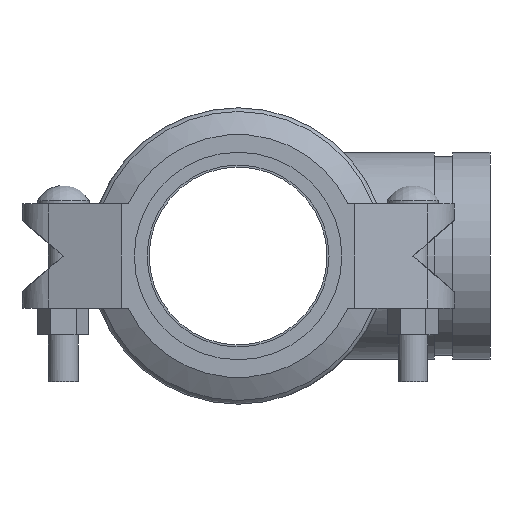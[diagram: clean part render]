
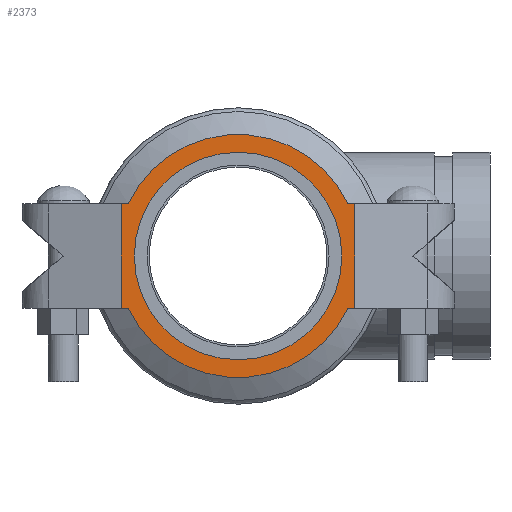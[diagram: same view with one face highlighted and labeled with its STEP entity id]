
A CAD part, left-side view. The second image highlights one B-rep face of the part: STEP entity #2373.
In plain terms, the highlighted planar face has unit normal (-1, 0, 0) as drawn and (0, 0, 1) by its records, which use the part's own axes.
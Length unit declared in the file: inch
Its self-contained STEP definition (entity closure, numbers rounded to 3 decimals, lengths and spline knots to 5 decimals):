
#94=FACE_BOUND('',#372,.T.);
#140=PLANE('',#2676);
#235=FACE_OUTER_BOUND('',#371,.T.);
#371=EDGE_LOOP('',(#1776,#1777,#1778,#1779,#1780,#1781,#1782,#1783));
#372=EDGE_LOOP('',(#1784,#1785));
#521=LINE('',#3846,#694);
#534=LINE('',#3880,#707);
#535=LINE('',#3884,#708);
#536=LINE('',#3886,#709);
#537=LINE('',#3888,#710);
#538=LINE('',#3891,#711);
#694=VECTOR('',#3140,0.3937);
#707=VECTOR('',#3179,0.3937);
#708=VECTOR('',#3182,0.3937);
#709=VECTOR('',#3183,0.3937);
#710=VECTOR('',#3184,0.3937);
#711=VECTOR('',#3187,0.3937);
#862=CIRCLE('',#2677,2.05);
#863=CIRCLE('',#2678,2.05);
#864=CIRCLE('',#2679,1.75);
#865=CIRCLE('',#2680,1.75);
#1029=VERTEX_POINT('',#3843);
#1030=VERTEX_POINT('',#3845);
#1038=VERTEX_POINT('',#3879);
#1039=VERTEX_POINT('',#3881);
#1040=VERTEX_POINT('',#3883);
#1041=VERTEX_POINT('',#3885);
#1042=VERTEX_POINT('',#3887);
#1043=VERTEX_POINT('',#3889);
#1044=VERTEX_POINT('',#3892);
#1045=VERTEX_POINT('',#3893);
#1295=EDGE_CURVE('',#1030,#1029,#521,.T.);
#1311=EDGE_CURVE('',#1029,#1038,#534,.T.);
#1312=EDGE_CURVE('',#1039,#1038,#862,.T.);
#1313=EDGE_CURVE('',#1040,#1039,#535,.T.);
#1314=EDGE_CURVE('',#1040,#1041,#536,.T.);
#1315=EDGE_CURVE('',#1041,#1042,#537,.T.);
#1316=EDGE_CURVE('',#1043,#1042,#863,.T.);
#1317=EDGE_CURVE('',#1030,#1043,#538,.T.);
#1318=EDGE_CURVE('',#1044,#1045,#864,.T.);
#1319=EDGE_CURVE('',#1045,#1044,#865,.T.);
#1776=ORIENTED_EDGE('',*,*,#1295,.T.);
#1777=ORIENTED_EDGE('',*,*,#1311,.T.);
#1778=ORIENTED_EDGE('',*,*,#1312,.F.);
#1779=ORIENTED_EDGE('',*,*,#1313,.F.);
#1780=ORIENTED_EDGE('',*,*,#1314,.T.);
#1781=ORIENTED_EDGE('',*,*,#1315,.T.);
#1782=ORIENTED_EDGE('',*,*,#1316,.F.);
#1783=ORIENTED_EDGE('',*,*,#1317,.F.);
#1784=ORIENTED_EDGE('',*,*,#1318,.T.);
#1785=ORIENTED_EDGE('',*,*,#1319,.T.);
#2373=ADVANCED_FACE('',(#235,#94),#140,.T.);
#2676=AXIS2_PLACEMENT_3D('',#3878,#3177,#3178);
#2677=AXIS2_PLACEMENT_3D('',#3882,#3180,#3181);
#2678=AXIS2_PLACEMENT_3D('',#3890,#3185,#3186);
#2679=AXIS2_PLACEMENT_3D('',#3894,#3188,#3189);
#2680=AXIS2_PLACEMENT_3D('',#3895,#3190,#3191);
#3140=DIRECTION('',(0.,-1.,0.));
#3177=DIRECTION('center_axis',(0.,0.,1.));
#3178=DIRECTION('ref_axis',(1.,0.,0.));
#3179=DIRECTION('',(1.,0.,0.));
#3180=DIRECTION('center_axis',(0.,0.,-1.));
#3181=DIRECTION('ref_axis',(-1.,0.,0.));
#3182=DIRECTION('',(-1.,0.,0.));
#3183=DIRECTION('',(0.,1.,0.));
#3184=DIRECTION('',(-1.,0.,0.));
#3185=DIRECTION('center_axis',(0.,0.,-1.));
#3186=DIRECTION('ref_axis',(-1.,0.,0.));
#3187=DIRECTION('',(1.,0.,0.));
#3188=DIRECTION('center_axis',(0.,0.,-1.));
#3189=DIRECTION('ref_axis',(-1.,0.,0.));
#3190=DIRECTION('center_axis',(0.,0.,-1.));
#3191=DIRECTION('ref_axis',(-1.,0.,0.));
#3843=CARTESIAN_POINT('',(-1.97,-0.88,1.065));
#3845=CARTESIAN_POINT('',(-1.97,0.88,1.065));
#3846=CARTESIAN_POINT('',(-1.97,1.465,1.065));
#3878=CARTESIAN_POINT('Origin',(0.,2.05,1.065));
#3879=CARTESIAN_POINT('',(-1.85151,-0.88,1.065));
#3880=CARTESIAN_POINT('',(-3.64528,-0.88,1.065));
#3881=CARTESIAN_POINT('',(1.85151,-0.88,1.065));
#3882=CARTESIAN_POINT('Origin',(0.,0.,1.065));
#3883=CARTESIAN_POINT('',(1.97,-0.88,1.065));
#3884=CARTESIAN_POINT('',(3.64528,-0.88,1.065));
#3885=CARTESIAN_POINT('',(1.97,0.88,1.065));
#3886=CARTESIAN_POINT('',(1.97,1.465,1.065));
#3887=CARTESIAN_POINT('',(1.85151,0.88,1.065));
#3888=CARTESIAN_POINT('',(3.64528,0.88,1.065));
#3889=CARTESIAN_POINT('',(-1.85151,0.88,1.065));
#3890=CARTESIAN_POINT('Origin',(0.,0.,1.065));
#3891=CARTESIAN_POINT('',(-3.64528,0.88,1.065));
#3892=CARTESIAN_POINT('',(0.,1.75,1.065));
#3893=CARTESIAN_POINT('',(0.,-1.75,1.065));
#3894=CARTESIAN_POINT('Origin',(0.,0.,1.065));
#3895=CARTESIAN_POINT('Origin',(0.,0.,1.065));
